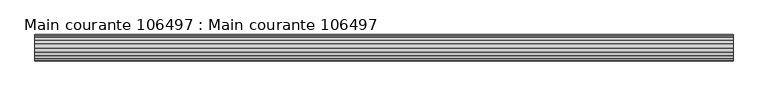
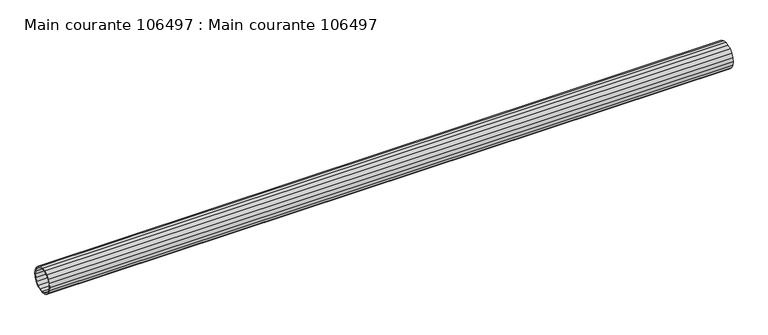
"""IFC4 building model written with IfcOpenShell, lengths in millimetres: beam geometry, Main courante 106497 : Main courante 106497."""

import ifcopenshell
import ifcopenshell.guid

model = None  # the IFC model being written
_history = None  # IfcOwnerHistory: only IFC2X3 demands one
_inside = {}  # id of a spatial element -> (the spatial element, [elements in it])
_under = {}  # id of a project, library or spatial element -> (it, [spatial elements below it])
_declared = {}  # id of a project -> (the project, [libraries it declares])
_typed = {}  # id of a type object -> (the type object, [elements of that type])
_made_of = {}  # id of a material, layer set ... -> (it, [elements and type objects made of it])


def new_model(schema):
    """Start an empty IFC model of exactly this schema.

    Asked for "IFC4X3", IfcOpenShell would pick the latest addendum, in which some entities
    have other attributes; the version numbers below select the first issue.
    IFC2X3 requires an IfcOwnerHistory on every rooted entity: one is made here for all.
    """
    global model, _history
    if schema == "IFC4X3":
        model = ifcopenshell.file(schema_version=(4, 3, 0, 0))
    else:
        model = ifcopenshell.file(schema=schema)
    _inside.clear()
    _under.clear()
    _declared.clear()
    _typed.clear()
    _made_of.clear()
    _history = None
    if model.schema == "IFC2X3":
        org = make("IfcOrganization", Name="unknown")
        user = make(
            "IfcPersonAndOrganization",
            ThePerson=make("IfcPerson", FamilyName="unknown"),
            TheOrganization=org,
        )
        app = make(
            "IfcApplication",
            ApplicationDeveloper=org,
            Version="unknown",
            ApplicationFullName="unknown",
            ApplicationIdentifier="unknown",
        )
        _history = make(
            "IfcOwnerHistory",
            OwningUser=user,
            OwningApplication=app,
            ChangeAction="ADDED",
            CreationDate=0,
        )
    return model


def make(cls, **values):
    """One entity of the class cls with the attributes given. An attribute that is None is left unset."""
    return model.create_entity(
        cls, **{name: value for name, value in values.items() if value is not None}
    )


def rooted(cls, **values):
    """An entity with a GlobalId (a new one), such as an element, a storey or a relation."""
    return make(cls, GlobalId=ifcopenshell.guid.new(), OwnerHistory=_history, **values)


def si_unit(unit_type, name, prefix=None):
    """IfcSIUnit, for example si_unit("LENGTHUNIT", "METRE", prefix="MILLI")."""
    return make("IfcSIUnit", UnitType=unit_type, Prefix=prefix, Name=name)


def assignment(units):
    """IfcUnitAssignment: the units of a project."""
    return None if units is None else make("IfcUnitAssignment", Units=units)


def point(xyz):
    """IfcCartesianPoint."""
    return None if xyz is None else make("IfcCartesianPoint", Coordinates=xyz)


def direction(xyz):
    """IfcDirection."""
    return None if xyz is None else make("IfcDirection", DirectionRatios=xyz)


def frame(location, z_axis=None, x_axis=None):
    """IfcAxis2Placement3D, a coordinate frame: its origin and axes. An axis left out is left unset."""
    return make(
        "IfcAxis2Placement3D",
        Location=point(location),
        Axis=direction(z_axis),
        RefDirection=direction(x_axis),
    )


def origin():
    """The frame at (0, 0, 0) with its axes left unset."""
    return frame((0.0, 0.0, 0.0))


def place(relative_to, where):
    """IfcLocalPlacement: puts the frame where relative to a parent placement (None: the world)."""
    return make(
        "IfcLocalPlacement", PlacementRelTo=relative_to, RelativePlacement=where
    )


def context(
    kind, dimensions, precision=None, world=None, true_north=None, identifier=None
):
    """IfcGeometricRepresentationContext, for example the 3D "Model" context."""
    return make(
        "IfcGeometricRepresentationContext",
        ContextIdentifier=identifier,
        ContextType=kind,
        CoordinateSpaceDimension=dimensions,
        Precision=precision,
        WorldCoordinateSystem=world,
        TrueNorth=true_north,
    )


def project(units=None, contexts=None):
    """IfcProject with its units and contexts."""
    return rooted(
        "IfcProject",
        Name="project",
        RepresentationContexts=contexts,
        UnitsInContext=assignment(units),
    )


def spatial(cls, under=None, at=None, **own):
    """A site, building, storey or space (cls), placed at a placement, below another one or the project."""
    s = rooted(cls, ObjectPlacement=at, **own)
    if under is not None:
        _under.setdefault(under.id(), (under, []))[1].append(s)
    return s


def polyline(points):
    """IfcPolyline through the points."""
    return make("IfcPolyline", Points=[point(p) for p in points])


def outline(outer, holes=None, kind="AREA"):
    """IfcArbitraryClosedProfileDef: a profile drawn as a closed curve; with holes, ...WithVoids."""
    if holes is None:
        return make("IfcArbitraryClosedProfileDef", ProfileType=kind, OuterCurve=outer)
    return make(
        "IfcArbitraryProfileDefWithVoids",
        ProfileType=kind,
        OuterCurve=outer,
        InnerCurves=holes,
    )


def extrude(swept, where, along, depth):
    """IfcExtrudedAreaSolid: the profile swept, set in the frame where, extruded along a direction by depth."""
    return make(
        "IfcExtrudedAreaSolid",
        SweptArea=swept,
        Position=where,
        ExtrudedDirection=direction(along),
        Depth=depth,
    )


def shape(context_of_items, identifier, shape_type, items):
    """IfcShapeRepresentation: the items that make up one representation, for example the "Body"."""
    return make(
        "IfcShapeRepresentation",
        ContextOfItems=context_of_items,
        RepresentationIdentifier=identifier,
        RepresentationType=shape_type,
        Items=items,
    )


def source(mapping_origin, context_of_items, identifier, shape_type, items):
    """IfcRepresentationMap: a shape defined once, which mapped items show again and again."""
    return make(
        "IfcRepresentationMap",
        MappingOrigin=mapping_origin,
        MappedRepresentation=shape(context_of_items, identifier, shape_type, items),
    )


def transform(
    local_origin,
    x_axis=None,
    y_axis=None,
    z_axis=None,
    scale=None,
    scale2=None,
    scale3=None,
    uniform=True,
):
    """IfcCartesianTransformationOperator3D, or its non-uniform kind. x_axis, y_axis, z_axis: its Axis1, 2, 3."""
    if uniform:
        return make(
            "IfcCartesianTransformationOperator3D",
            Axis1=direction(x_axis),
            Axis2=direction(y_axis),
            LocalOrigin=point(local_origin),
            Scale=scale,
            Axis3=direction(z_axis),
        )
    return make(
        "IfcCartesianTransformationOperator3DnonUniform",
        Axis1=direction(x_axis),
        Axis2=direction(y_axis),
        LocalOrigin=point(local_origin),
        Scale=scale,
        Axis3=direction(z_axis),
        Scale2=scale2,
        Scale3=scale3,
    )


def mapped(mapping_source, mapping_target):
    """IfcMappedItem: shows the shape of a source again, moved by a transform."""
    return make(
        "IfcMappedItem", MappingSource=mapping_source, MappingTarget=mapping_target
    )


def made_of(thing, what):
    """Note that an element or type object is made of a material, layer set ...; save() writes the relation."""
    if what is not None:
        _made_of.setdefault(what.id(), (what, []))[1].append(thing)
    return thing


def element(
    cls,
    number,
    at=None,
    inside=None,
    cuts=None,
    type_object=None,
    material=None,
    context=None,
    identifier="Body",
    shape_type=None,
    held_by="IfcProductDefinitionShape",
    body=None,
    shapes=None,
    **own,
):
    """One element of the class cls, such as IfcWall. Its Tag is "e" and its number.

    at: its placement. inside: the storey or other place that contains it. cuts: it is an
    opening in that element (IfcRelVoidsElement). A single representation is given by context,
    identifier, shape_type and body (its items); several are given by shapes. held_by: the class
    of the entity that holds the representations. save() writes the other relations.
    """
    e = rooted(cls, Tag="e%d" % number, ObjectPlacement=at, **own)
    if body is not None:
        shapes = [shape(context, identifier, shape_type, body)]
    if shapes is not None:
        e.Representation = make(held_by, Representations=shapes)
    if inside is not None:
        _inside.setdefault(inside.id(), (inside, []))[1].append(e)
    if cuts is not None:
        rooted(
            "IfcRelVoidsElement", RelatingBuildingElement=cuts, RelatedOpeningElement=e
        )
    if type_object is not None:
        _typed.setdefault(type_object.id(), (type_object, []))[1].append(e)
    return made_of(e, material)


def aggregate(whole, parts):
    """IfcRelAggregates: a whole, such as a stair, and the parts it consists of."""
    return rooted("IfcRelAggregates", RelatingObject=whole, RelatedObjects=parts)


def save(model, path):
    """Write the relations noted so far, then the file.

    IfcRelAggregates (storeys below a building ...), IfcRelContainedInSpatialStructure (elements
    in a storey), IfcRelDefinesByType, IfcRelAssociatesMaterial and IfcRelDeclares: one each for
    every whole, place, type object, material and project.
    """
    for whole, parts in _under.values():
        aggregate(whole, parts)
    for where, things in _inside.values():
        rooted(
            "IfcRelContainedInSpatialStructure",
            RelatedElements=things,
            RelatingStructure=where,
        )
    for kind, things in _typed.values():
        rooted("IfcRelDefinesByType", RelatedObjects=things, RelatingType=kind)
    for what, things in _made_of.values():
        rooted("IfcRelAssociatesMaterial", RelatedObjects=things, RelatingMaterial=what)
    for by, libraries in _declared.values():
        rooted("IfcRelDeclares", RelatingContext=by, RelatedDefinitions=libraries)
    model.write(path)


def main_courante_106497_main_courante_106497_5a7e78d0(model_context):
    return source(origin(), model_context, "Body", "SweptSolid", [
        extrude(outline(polyline([(-24956.0, 8765.0), (-24954.8180149, 8772.4627604), (-24951.3877604, 8779.1950138), (-24946.0450138, 8784.5377604), (-24939.3127604, 8787.9680149), (-24931.85, 8789.15), (-24924.3872396, 8787.9680149), (-24917.6549862, 8784.5377604), (-24912.3122396, 8779.1950138), (-24908.8819851, 8772.4627604), (-24907.7, 8765.0), (-24908.8819851, 8757.5372396), (-24912.3122396, 8750.8049862), (-24917.6549862, 8745.4622396), (-24924.3872396, 8742.0319851), (-24931.85, 8740.85), (-24939.3127604, 8742.0319851), (-24946.0450138, 8745.4622396), (-24951.3877604, 8750.8049862), (-24954.8180149, 8757.5372396), (-24956.0, 8765.0)]), holes=[polyline([(-24910.2, 8765.0), (-24911.2596264, 8771.6902179), (-24914.3347821, 8777.7255507), (-24919.1244493, 8782.5152179), (-24925.1597821, 8785.5903736), (-24931.85, 8786.65), (-24938.5402179, 8785.5903736), (-24944.5755507, 8782.5152179), (-24949.3652179, 8777.7255507), (-24952.4403736, 8771.6902179), (-24953.5, 8765.0), (-24952.4403736, 8758.3097821), (-24949.3652179, 8752.2744493), (-24944.5755507, 8747.4847821), (-24938.5402179, 8744.4096264), (-24931.85, 8743.35), (-24925.1597821, 8744.4096264), (-24919.1244493, 8747.4847821), (-24914.3347821, 8752.2744493), (-24911.2596264, 8758.3097821), (-24910.2, 8765.0)])]), frame((12800.9999999, 0.0, 0.0), z_axis=(1.0, 0.0, 0.0), x_axis=(0.0, 1.0, 0.0)), (0.0, 0.0, 1.0), 1285.5),
    ])


if __name__ == "__main__":
    model = new_model("IFC4")
    model_context = context("Model", 3, world=origin())
    ifc_project = project(units=[si_unit("LENGTHUNIT", "METRE", prefix="MILLI")], contexts=[model_context])
    site = spatial("IfcSite", under=ifc_project)
    building = spatial("IfcBuilding", under=site)
    placement = place(None, origin())
    main_courante_106497_main_courante_106497_shape = main_courante_106497_main_courante_106497_5a7e78d0(model_context)
    element("IfcBeam", 1, ObjectType="Main courante 106497 : Main courante 106497", at=placement, inside=building, context=model_context, shape_type="MappedRepresentation", body=[
        mapped(main_courante_106497_main_courante_106497_shape, transform((0.0, 0.0, 0.0), x_axis=(1.0, 0.0, 0.0), y_axis=(0.0, 1.0, 0.0), z_axis=(0.0, 0.0, 1.0))),
    ])
    save(model, "model.ifc")
